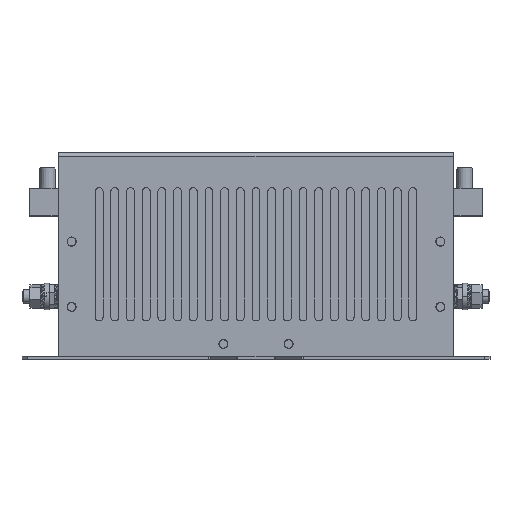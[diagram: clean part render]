
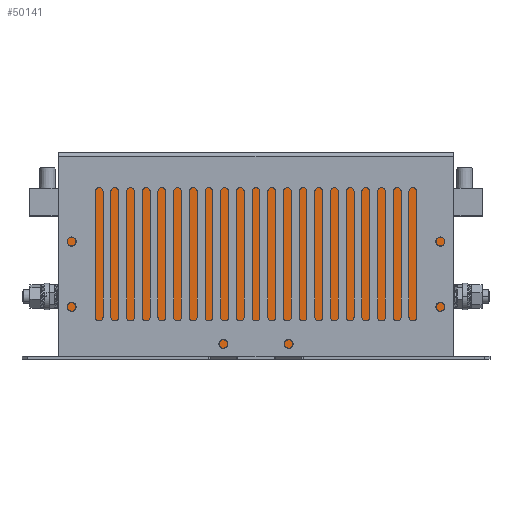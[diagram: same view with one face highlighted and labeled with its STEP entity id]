
A CAD part, top view. The second image highlights one B-rep face of the part: STEP entity #50141.
In plain terms, the highlighted planar face has unit normal (0, 0, 1).
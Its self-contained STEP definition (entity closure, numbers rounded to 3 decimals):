
#42774=DIRECTION('',(-1.,0.,0.));
#42775=VECTOR('',#42774,147.6);
#42776=CARTESIAN_POINT('',(93.781,1.7,-27.667));
#42777=LINE('',#42776,#42775);
#44346=DIRECTION('',(0.,-1.,0.));
#44347=VECTOR('',#44346,73.963);
#44348=CARTESIAN_POINT('',(93.781,75.663,-27.667));
#44349=LINE('',#44348,#44347);
#44360=DIRECTION('',(0.,1.,0.));
#44361=VECTOR('',#44360,73.963);
#44362=CARTESIAN_POINT('',(-53.819,1.7,-27.667));
#44363=LINE('',#44362,#44361);
#46534=DIRECTION('',(1.,0.,0.));
#46535=VECTOR('',#46534,147.6);
#46536=CARTESIAN_POINT('',(-53.819,75.663,-27.667));
#46537=LINE('',#46536,#46535);
#47809=CARTESIAN_POINT('',(93.781,1.7,-27.667));
#47810=VERTEX_POINT('',#47809);
#47813=CARTESIAN_POINT('',(-53.819,1.7,-27.667));
#47814=VERTEX_POINT('',#47813);
#48289=CARTESIAN_POINT('',(93.781,75.663,-27.667));
#48290=VERTEX_POINT('',#48289);
#48291=CARTESIAN_POINT('',(-53.819,75.663,-27.667));
#48292=VERTEX_POINT('',#48291);
#50128=CARTESIAN_POINT('',(19.981,38.682,-27.667));
#50129=DIRECTION('',(0.,0.,1.));
#50130=DIRECTION('',(0.,-1.,0.));
#50131=AXIS2_PLACEMENT_3D('',#50128,#50129,#50130);
#50132=PLANE('',#50131);
#50133=ORIENTED_EDGE('',*,*,#50121,.T.);
#50134=ORIENTED_EDGE('',*,*,#48741,.T.);
#50136=ORIENTED_EDGE('',*,*,#50135,.T.);
#50138=ORIENTED_EDGE('',*,*,#50137,.T.);
#50139=EDGE_LOOP('',(#50133,#50134,#50136,#50138));
#50140=FACE_OUTER_BOUND('',#50139,.F.);
#48741=EDGE_CURVE('',#47810,#47814,#42777,.T.);
#50121=EDGE_CURVE('',#48290,#47810,#44349,.T.);
#50135=EDGE_CURVE('',#47814,#48292,#44363,.T.);
#50137=EDGE_CURVE('',#48292,#48290,#46537,.T.);
#50141=ADVANCED_FACE('',(#50140),#50132,.T.);
